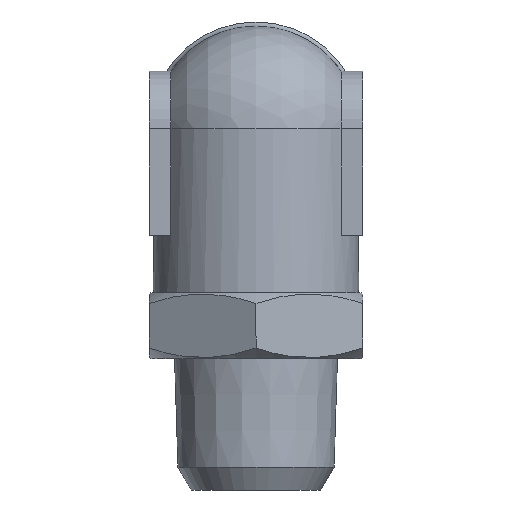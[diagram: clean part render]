
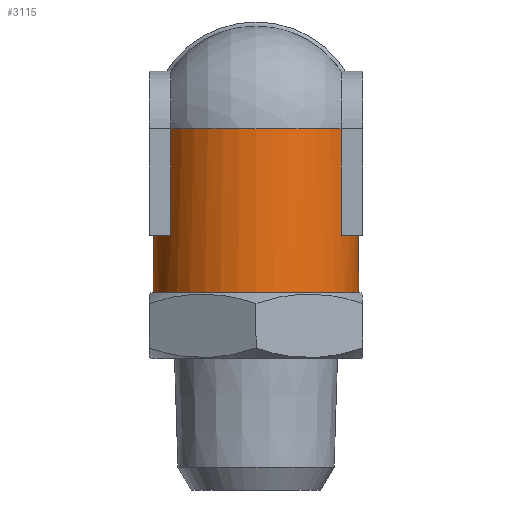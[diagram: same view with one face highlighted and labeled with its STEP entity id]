
A CAD part, left-side view. The second image highlights one B-rep face of the part: STEP entity #3115.
In plain terms, the highlighted cylindrical face has radius 6.25 mm (diameter 12.5 mm), a full revolution.
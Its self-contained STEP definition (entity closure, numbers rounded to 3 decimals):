
#13=ELLIPSE('',#2972,8.839,6.25);
#20=VECTOR('',#2250,1.);
#21=VECTOR('',#2253,1.);
#22=VECTOR('',#2256,1.);
#23=VECTOR('',#2259,1.);
#60=LINE('',#2564,#20);
#61=LINE('',#2568,#21);
#62=LINE('',#2572,#22);
#63=LINE('',#2575,#23);
#1301=CYLINDRICAL_SURFACE('',#2970,6.25);
#1421=ORIENTED_EDGE('',*,*,#1756,.F.);
#1422=ORIENTED_EDGE('',*,*,#1757,.F.);
#1423=ORIENTED_EDGE('',*,*,#1758,.F.);
#1424=ORIENTED_EDGE('',*,*,#1759,.F.);
#1425=ORIENTED_EDGE('',*,*,#1760,.F.);
#1426=ORIENTED_EDGE('',*,*,#1761,.T.);
#1427=ORIENTED_EDGE('',*,*,#1762,.F.);
#1428=ORIENTED_EDGE('',*,*,#1763,.F.);
#1429=ORIENTED_EDGE('',*,*,#1764,.F.);
#1586=CIRCLE('',#2971,6.25);
#1587=CIRCLE('',#2973,6.25);
#1588=CIRCLE('',#2974,6.25);
#1589=CIRCLE('',#2975,6.25);
#1658=VERTEX_POINT('',#2558);
#1659=VERTEX_POINT('',#2560);
#1660=VERTEX_POINT('',#2561);
#1661=VERTEX_POINT('',#2563);
#1662=VERTEX_POINT('',#2565);
#1663=VERTEX_POINT('',#2567);
#1664=VERTEX_POINT('',#2569);
#1665=VERTEX_POINT('',#2571);
#1666=VERTEX_POINT('',#2573);
#1756=EDGE_CURVE('',#1658,#1658,#1586,.T.);
#1757=EDGE_CURVE('',#1659,#1660,#13,.T.);
#1758=EDGE_CURVE('',#1661,#1659,#60,.T.);
#1759=EDGE_CURVE('',#1662,#1661,#1587,.T.);
#1760=EDGE_CURVE('',#1663,#1662,#61,.T.);
#1761=EDGE_CURVE('',#1663,#1664,#1588,.T.);
#1762=EDGE_CURVE('',#1665,#1664,#62,.T.);
#1763=EDGE_CURVE('',#1666,#1665,#1589,.T.);
#1764=EDGE_CURVE('',#1660,#1666,#63,.T.);
#1887=EDGE_LOOP('',(#1421));
#1888=EDGE_LOOP('',(#1422,#1423,#1424,#1425,#1426,#1427,#1428,#1429));
#2016=FACE_BOUND('',#1887,.T.);
#2017=FACE_BOUND('',#1888,.T.);
#2244=DIRECTION('',(0.,1.,0.));
#2245=DIRECTION('',(1.,0.,0.));
#2246=DIRECTION('',(0.,-1.,0.));
#2247=DIRECTION('',(0.,0.,-6.25));
#2248=DIRECTION('',(0.707,0.707,0.));
#2249=DIRECTION('',(0.707,-0.707,0.));
#2250=DIRECTION('',(0.,3.,0.));
#2251=DIRECTION('',(0.,1.,0.));
#2252=DIRECTION('',(0.,0.,-6.25));
#2253=DIRECTION('',(0.,-6.5,0.));
#2254=DIRECTION('',(0.,-1.,0.));
#2255=DIRECTION('',(0.,0.,-6.25));
#2256=DIRECTION('',(0.,6.5,0.));
#2257=DIRECTION('',(0.,1.,0.));
#2258=DIRECTION('',(0.,0.,-6.25));
#2259=DIRECTION('',(0.,-3.,0.));
#2557=CARTESIAN_POINT('',(1.572,-12.553,0.));
#2558=CARTESIAN_POINT('',(7.822,-12.553,0.));
#2559=CARTESIAN_POINT('',(1.572,-12.553,0.));
#2560=CARTESIAN_POINT('',(5.072,-6.053,5.178));
#2561=CARTESIAN_POINT('',(5.072,-6.053,-5.178));
#2562=CARTESIAN_POINT('',(1.572,-2.553,0.));
#2563=CARTESIAN_POINT('',(5.072,-9.053,5.178));
#2564=CARTESIAN_POINT('',(5.072,-9.053,5.178));
#2565=CARTESIAN_POINT('',(-1.928,-9.053,5.178));
#2566=CARTESIAN_POINT('',(1.572,-9.053,0.));
#2567=CARTESIAN_POINT('',(-1.928,-2.553,5.178));
#2568=CARTESIAN_POINT('',(-1.928,-2.553,5.178));
#2569=CARTESIAN_POINT('',(-1.928,-2.553,-5.178));
#2570=CARTESIAN_POINT('',(1.572,-2.553,0.));
#2571=CARTESIAN_POINT('',(-1.928,-9.053,-5.178));
#2572=CARTESIAN_POINT('',(-1.928,-9.053,-5.178));
#2573=CARTESIAN_POINT('',(5.072,-9.053,-5.178));
#2574=CARTESIAN_POINT('',(1.572,-9.053,0.));
#2575=CARTESIAN_POINT('',(5.072,-6.053,-5.178));
#2970=AXIS2_PLACEMENT_3D('',#2557,#2244,#2245);
#2971=AXIS2_PLACEMENT_3D('',#2559,#2246,#2247);
#2972=AXIS2_PLACEMENT_3D('',#2562,#2248,#2249);
#2973=AXIS2_PLACEMENT_3D('',#2566,#2251,#2252);
#2974=AXIS2_PLACEMENT_3D('',#2570,#2254,#2255);
#2975=AXIS2_PLACEMENT_3D('',#2574,#2257,#2258);
#3115=ADVANCED_FACE('',(#2016,#2017),#1301,.T.);
